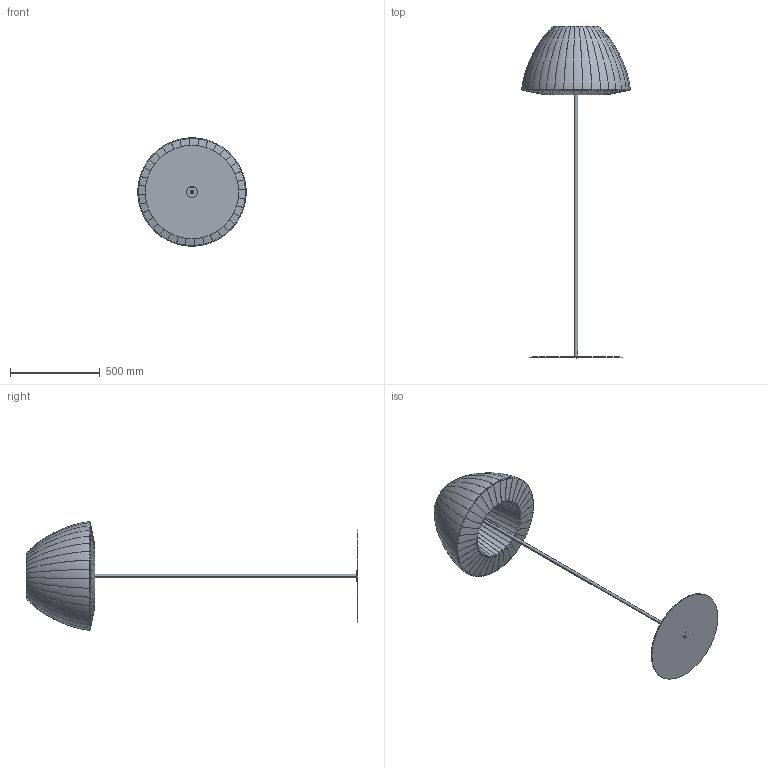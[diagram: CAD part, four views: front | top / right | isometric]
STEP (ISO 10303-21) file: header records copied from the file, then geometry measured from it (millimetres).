
FILE_DESCRIPTION (( 'STEP AP203' ), '1' );
FILE_NAME ('PTBEL060E27XXXX-PER 3D.STEP', '2025-06-25T10:10:32', ( '' ), ( '' ), 'SwSTEP 2.0', 'SolidWorks 2024', '' );
FILE_SCHEMA (( 'CONFIG_CONTROL_DESIGN' ));
Length unit declared in the file: millimetre
Products named in the file (7): WSCM2D0062-0100-00_dasasd; MPTBEL060E27; WSCM2J0133-0100-01; PSPBELL060; WSCM2C0198-0100-00_XX<A macchina>; PTBEL060E27XXXX-PER 3D; WSCM2C0193-0100-00-I
Assembly tree (6 placements, depth 4):
  PTBEL060E27XXXX-PER 3D
    MPTBEL060E27
      WSCM2C0198-0100-00_XX<A macchina>
      WSCM2J0133-0100-01
        WSCM2D0062-0100-00_dasasd
      WSCM2C0193-0100-00-I
    PSPBELL060
Bounding box: 603.99 x 1850 x 603.99 mm (x, y, z)
Volume: 2348673.1 mm3; surface area: 2981780.7 mm2
Topology: 39 solids, 39 shells, 712 faces, 1866 edges, 1240 vertices
Faces by surface type: torus 288, plane 153, cone 148, bspline 104, cylinder 19
Entity records: 30961 total; most frequent: CARTESIAN_POINT 12245, DIRECTION 3996, ORIENTED_EDGE 3732, EDGE_CURVE 1866, AXIS2_PLACEMENT_3D 1731, VERTEX_POINT 1240, CIRCLE 1112, EDGE_LOOP 802
